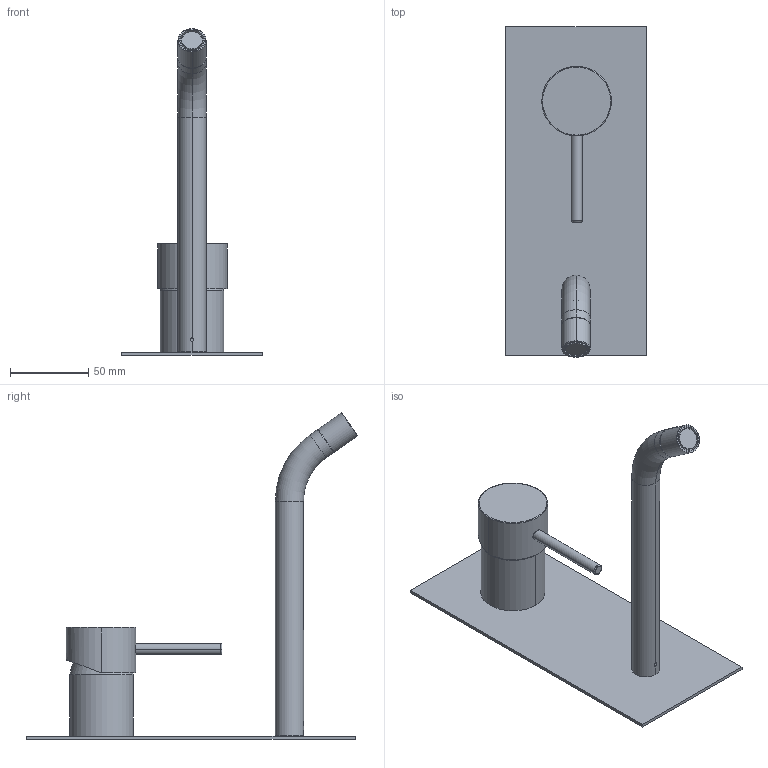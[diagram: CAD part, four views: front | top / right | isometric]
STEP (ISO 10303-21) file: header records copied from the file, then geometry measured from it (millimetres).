
FILE_DESCRIPTION((''),'2;1');
FILE_NAME('F3051VLX5_FILE_3D_','2016-02-02T',('ivanv'),(''),'CREO PARAMETRIC BY PTC INC, 2015290','CREO PARAMETRIC BY PTC INC, 2015290','');
FILE_SCHEMA(('CONFIG_CONTROL_DESIGN'));
Length unit declared in the file: millimetre
Products named in the file (1): F3051VLX5_FILE_3D_
Bounding box: 90 x 211.49 x 208.57 mm (x, y, z)
Volume: 95357.5 mm3; surface area: 83554.6 mm2
Topology: 3 solids, 4 shells, 300 faces, 675 edges, 395 vertices
Faces by surface type: cylinder 102, bspline 75, plane 62, torus 34, cone 25, sphere 2
Entity records: 12119 total; most frequent: CARTESIAN_POINT 5864, ORIENTED_EDGE 1346, DIRECTION 1217, EDGE_CURVE 673, AXIS2_PLACEMENT_3D 494, VERTEX_POINT 395, EDGE_LOOP 324, FACE_OUTER_BOUND 300
